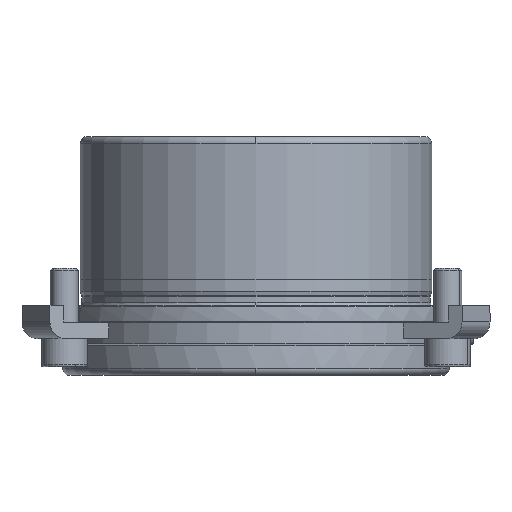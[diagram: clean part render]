
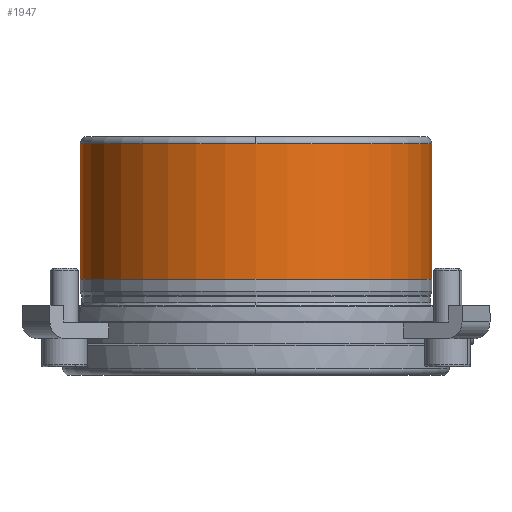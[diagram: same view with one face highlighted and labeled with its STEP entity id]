
A CAD part, front view. The second image highlights one B-rep face of the part: STEP entity #1947.
In plain terms, the highlighted cylindrical face has radius 49.995 mm (diameter 99.99 mm), a partial arc.
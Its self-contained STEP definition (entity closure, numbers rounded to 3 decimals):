
#1102=CARTESIAN_POINT('',(49.995,0.,7.4));
#1103=VERTEX_POINT('',#1102);
#1104=CARTESIAN_POINT('',(49.995,0.,46.0));
#1105=VERTEX_POINT('',#1104);
#1106=CARTESIAN_POINT('',(49.995,0.,7.4));
#1107=DIRECTION('',(0.0,0.0,1.0));
#1108=VECTOR('',#1107,38.6);
#1109=LINE('',#1106,#1108);
#1110=EDGE_CURVE('',#1103,#1105,#1109,.T.);
#1112=CARTESIAN_POINT('',(-49.995,0.,7.4));
#1113=VERTEX_POINT('',#1112);
#1121=CARTESIAN_POINT('',(-49.995,0.,46.0));
#1122=VERTEX_POINT('',#1121);
#1123=CARTESIAN_POINT('',(-49.995,0.,7.4));
#1124=DIRECTION('',(0.0,0.0,1.0));
#1125=VECTOR('',#1124,38.6);
#1126=LINE('',#1123,#1125);
#1127=EDGE_CURVE('',#1113,#1122,#1126,.T.);
#1163=CARTESIAN_POINT('',(0.,-49.995,46.));
#1164=VERTEX_POINT('',#1163);
#1165=CARTESIAN_POINT('',(0.0,0.,46.0));
#1166=DIRECTION('',(0.0,0.0,-1.0));
#1167=DIRECTION('',(1.0,0.0,0.0));
#1168=AXIS2_PLACEMENT_3D('',#1165,#1166,#1167);
#1169=CIRCLE('',#1168,49.995);
#1170=EDGE_CURVE('',#1164,#1122,#1169,.T.);
#1918=CARTESIAN_POINT('',(0.0,0.,46.0));
#1919=DIRECTION('',(0.0,0.0,-1.0));
#1920=DIRECTION('',(1.0,0.0,0.0));
#1921=AXIS2_PLACEMENT_3D('',#1918,#1919,#1920);
#1922=CIRCLE('',#1921,49.995);
#1923=EDGE_CURVE('',#1105,#1164,#1922,.T.);
#1929=CARTESIAN_POINT('',(0.0,0.,26.7));
#1930=DIRECTION('',(0.0,0.,-1.0));
#1931=DIRECTION('',(1.0,0.0,0.0));
#1932=AXIS2_PLACEMENT_3D('',#1929,#1930,#1931);
#1933=CYLINDRICAL_SURFACE('',#1932,49.995);
#1934=ORIENTED_EDGE('',*,*,#1110,.T.);
#1935=ORIENTED_EDGE('',*,*,#1923,.T.);
#1936=ORIENTED_EDGE('',*,*,#1170,.T.);
#1937=ORIENTED_EDGE('',*,*,#1127,.F.);
#1938=CARTESIAN_POINT('',(0.0,0.,7.4));
#1939=DIRECTION('',(0.0,0.0,-1.0));
#1940=DIRECTION('',(1.0,0.0,0.0));
#1941=AXIS2_PLACEMENT_3D('',#1938,#1939,#1940);
#1942=CIRCLE('',#1941,49.995);
#1943=EDGE_CURVE('',#1103,#1113,#1942,.T.);
#1944=ORIENTED_EDGE('',*,*,#1943,.F.);
#1945=EDGE_LOOP('',(#1934,#1935,#1936,#1937,#1944));
#1946=FACE_OUTER_BOUND('',#1945,.T.);
#1947=ADVANCED_FACE('',(#1946),#1933,.T.);
